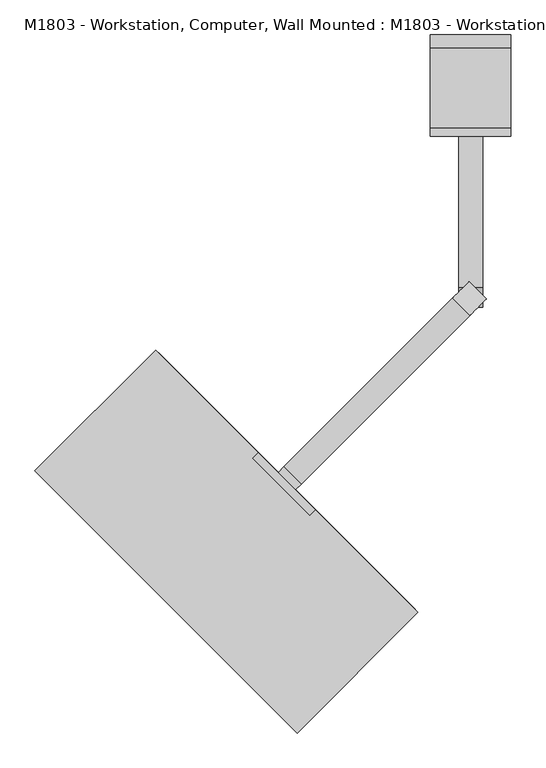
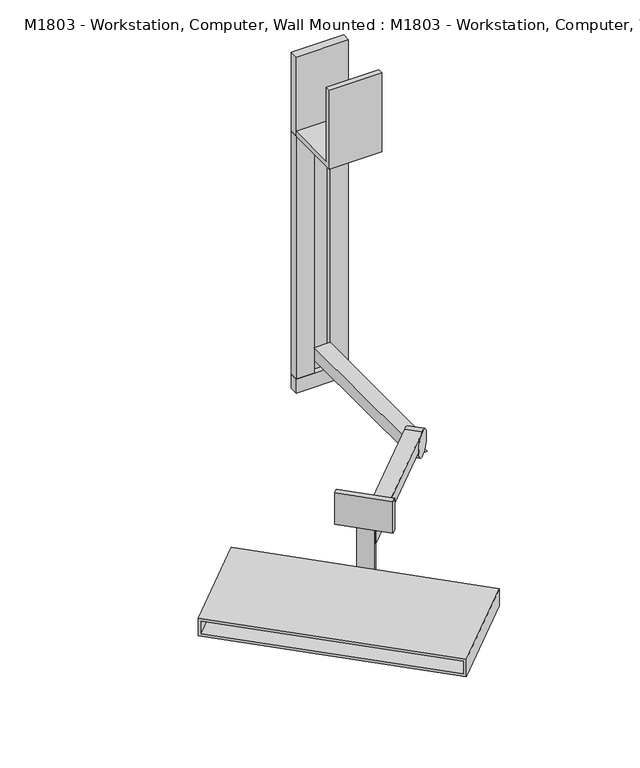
"""IFC4 building model written with IfcOpenShell, lengths in millimetres: proxy geometry, M1803 - Workstation, Computer, Wall Mounted : M1803 - Workstation, Computer, Wall Mounted."""

from ifc_helpers import new_model, si_unit, point, frame, frame_2d, origin, origin_with_axes, place, context, project, spatial, polyline, circle_curve, trimmed, segment, composite_curve, outline, extrude, source, transform, mapped, element, save


def m1803_workstation_computer_wall_mounted_m1803_workstation_ab120e1f(model_context):
    return source(origin(), model_context, "Body", "SweptSolid", [
        extrude(outline(composite_curve([segment(trimmed(circle_curve(frame_2d((0.0, -31.75)), 31.75), [point((31.75, -31.75))], [point((-31.75, -31.75))], False, "CARTESIAN"), True, "CONTINUOUS"), segment(trimmed(circle_curve(frame_2d((0.0, -31.75)), 31.75), [point((-31.75, -31.75))], [point((31.75, -31.75))], False, "CARTESIAN"), True, "CONTINUOUS")], self_intersect=False)), frame((2.245064, -438.0807043, 133.35), z_axis=(-0.7071067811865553, 0.7071067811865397, 0.0), x_axis=(-0.7071067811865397, -0.7071067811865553, 0.0)), (0.0, 0.0, 1.0), 38.1),
        extrude(outline(composite_curve([segment(polyline([(-397.51, 101.6), (-20.32, 101.6), (-20.32, 69.85), (-429.26, 69.85)]), True, "CONTINUOUS"), segment(trimmed(circle_curve(frame_2d((-429.26, 101.6)), 31.75), [point((-429.26, 69.85))], [point((-397.51, 101.6))], True, "CARTESIAN"), True, "CONTINUOUS")], self_intersect=False)), frame((-19.05, 0.0, 0.0), z_axis=(1.0, 0.0, 0.0), x_axis=(0.0, 1.0, 0.0)), (0.0, 0.0, 1.0), 38.1),
        extrude(outline(composite_curve([segment(trimmed(circle_curve(frame_2d((381.0, -31.75)), 31.75), [point((381.0, 0.0))], [point((349.25, -31.75))], True, "CARTESIAN"), True, "CONTINUOUS"), segment(polyline([(349.25, -31.75), (0.0, -31.75), (0.0, 0.0), (381.0, 0.0)]), True, "CONTINUOUS")], self_intersect=False)), frame((-294.103388, -680.5476196, 133.35), z_axis=(0.7071067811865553, -0.7071067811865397, 0.0), x_axis=(0.7071067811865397, 0.7071067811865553, 0.0)), (0.0, 0.0, 1.0), 38.1),
        extrude(outline(polyline([(-584.2, 0.0), (0.0, 0.0), (0.0, -44.45), (-584.2, -44.45), (-584.2, 0.0)]), holes=[polyline([(-577.8500001, -6.35), (-577.8500001, -38.1), (-6.35, -38.1), (-6.35, -6.35), (-577.8500001, -6.35)])]), frame((-686.5405805, -686.8337989, 44.45), z_axis=(0.7071067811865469, 0.7071067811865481, 0.0), x_axis=(-0.7071067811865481, 0.7071067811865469, 0.0)), (0.0, 0.0, 1.0), 269.24),
        extrude(outline(polyline([(63.5, -20.32), (-63.5, -20.32), (-63.5, 0.0), (63.5, 0.0), (63.5, -20.32)])), origin_with_axes(), (0.0, 0.0, 1.0), 36.4221334),
        extrude(outline(polyline([(-63.5, -20.32), (-63.5, 0.0), (63.5, 0.0), (63.5, -20.32), (19.05, -20.32), (19.05, -7.62), (-19.05, -7.62), (-19.05, -20.32), (-63.5, -20.32)])), frame((0.0, 0.0, 36.4221334), z_axis=(0.0, 0.0, 1.0), x_axis=(1.0, 0.0, 0.0)), (0.0, 0.0, 1.0), 623.9778666),
        extrude(outline(polyline([(-147.32, 673.1), (-20.32, 673.1), (-20.32, 660.4), (-160.02, 660.4), (-160.02, 863.6), (-147.32, 863.6), (-147.32, 673.1)])), frame((-63.5, 0.0, 0.0), z_axis=(1.0, 0.0, 0.0), x_axis=(0.0, 1.0, 0.0)), (0.0, 0.0, 1.0), 127.0),
        extrude(outline(polyline([(-253.6922354, -756.8797966), (-343.4947966, -667.0772354), (-334.5145405, -658.0969793), (-244.7119793, -747.8995405), (-253.6922354, -756.8797966)])), frame((0.0, 0.0, 153.4975917), z_axis=(0.0, 0.0, 1.0), x_axis=(1.0, 0.0, 0.0)), (0.0, 0.0, 1.0), 81.4524083),
        extrude(outline(polyline([(-267.1626196, -707.488388), (-276.1428757, -716.4686441), (-303.0836441, -689.5278757), (-294.103388, -680.5476196), (-267.1626196, -707.488388)])), origin_with_axes(), (0.0, 0.0, 1.0), 203.2),
        extrude(outline(polyline([(63.5, -20.32), (-63.5, -20.32), (-63.5, 0.0), (63.5, 0.0), (63.5, -20.32)])), frame((0.0, 0.0, 660.4), z_axis=(0.0, 0.0, 1.0), x_axis=(1.0, 0.0, 0.0)), (0.0, 0.0, 1.0), 203.2),
    ])


if __name__ == "__main__":
    model = new_model("IFC4")
    model_context = context("Model", 3, world=origin())
    ifc_project = project(units=[si_unit("LENGTHUNIT", "METRE", prefix="MILLI")], contexts=[model_context])
    site = spatial("IfcSite", under=ifc_project)
    building = spatial("IfcBuilding", under=site)
    placement = place(None, origin())
    m1803_workstation_computer_wall_mounted_m1803_workstation_shape = m1803_workstation_computer_wall_mounted_m1803_workstation_ab120e1f(model_context)
    element("IfcBuildingElementProxy", 1, Name="M1803 - Workstation, Computer, Wall Mounted : M1803 - Workstation, Computer, Wall Mounted", ObjectType="M1803 - Workstation, Computer, Wall Mounted : M1803 - Workstation, Computer, Wall Mounted", at=placement, inside=building, context=model_context, shape_type="MappedRepresentation", body=[
        mapped(m1803_workstation_computer_wall_mounted_m1803_workstation_shape, transform((0.0, 0.0, 0.0), x_axis=(1.0, 0.0, 0.0), y_axis=(0.0, 1.0, 0.0), z_axis=(0.0, 0.0, 1.0))),
    ])
    save(model, "model.ifc")
